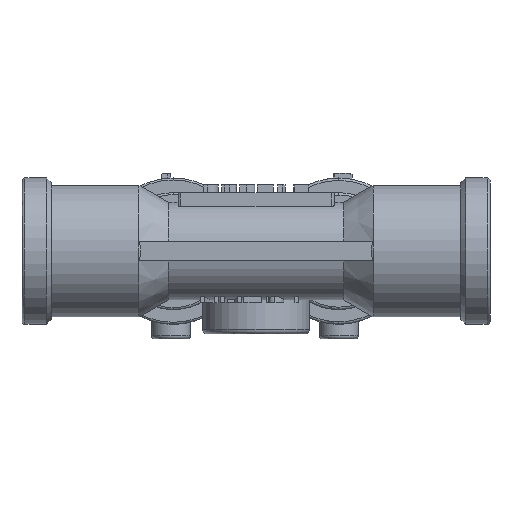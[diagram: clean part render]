
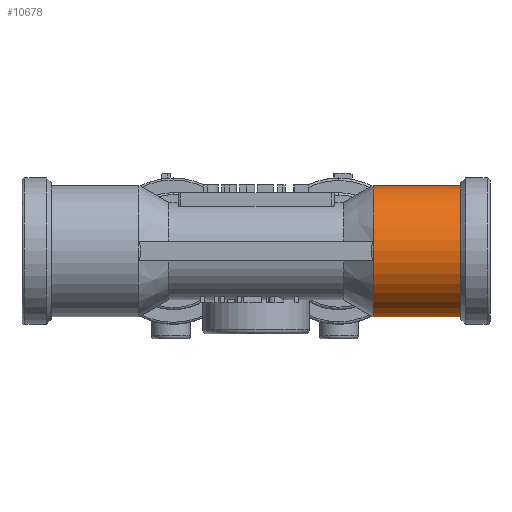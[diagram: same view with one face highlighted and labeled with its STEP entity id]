
A CAD part, front view. The second image highlights one B-rep face of the part: STEP entity #10678.
In plain terms, the highlighted cylindrical face has radius 6.75 mm (diameter 13.5 mm), a partial arc.
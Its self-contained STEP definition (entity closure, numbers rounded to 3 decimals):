
#193 = DIRECTION ( 'NONE',  ( 1., 0., 0. ) ) ;
#436 = CARTESIAN_POINT ( 'NONE',  ( 57.726, 50.382, 133.254 ) ) ;
#672 = EDGE_CURVE ( 'NONE', #10690, #12712, #9213, .T. ) ;
#847 = VECTOR ( 'NONE', #193, 1000. ) ;
#1311 = ORIENTED_EDGE ( 'NONE', *, *, #3421, .F. ) ;
#1366 = CARTESIAN_POINT ( 'NONE',  ( 57.726, 50.382, 119.754 ) ) ;
#1564 = DIRECTION ( 'NONE',  ( 0., 0., -1. ) ) ;
#1702 = EDGE_CURVE ( 'NONE', #12951, #10690, #5446, .T. ) ;
#2031 = CARTESIAN_POINT ( 'NONE',  ( 48.726, 50.382, 126.504 ) ) ;
#3150 = ORIENTED_EDGE ( 'NONE', *, *, #11572, .F. ) ;
#3259 = DIRECTION ( 'NONE',  ( 1., 0., 0. ) ) ;
#3276 = ORIENTED_EDGE ( 'NONE', *, *, #1702, .T. ) ;
#3421 = EDGE_CURVE ( 'NONE', #12951, #4818, #5589, .T. ) ;
#4061 = AXIS2_PLACEMENT_3D ( 'NONE', #2031, #9380, #7330 ) ;
#4649 = DIRECTION ( 'NONE',  ( 1., 0., 0. ) ) ;
#4707 = AXIS2_PLACEMENT_3D ( 'NONE', #10040, #11953, #1564 ) ;
#4818 = VERTEX_POINT ( 'NONE', #436 ) ;
#5096 = VECTOR ( 'NONE', #3259, 1000. ) ;
#5446 = CIRCLE ( 'NONE', #4061, 6.75 ) ;
#5589 = LINE ( 'NONE', #7580, #5096 ) ;
#6247 = CARTESIAN_POINT ( 'NONE',  ( 48.726, 50.382, 133.254 ) ) ;
#6424 = FACE_OUTER_BOUND ( 'NONE', #11313, .T. ) ;
#7330 = DIRECTION ( 'NONE',  ( 0., 0., -1. ) ) ;
#7580 = CARTESIAN_POINT ( 'NONE',  ( 60.726, 50.382, 133.254 ) ) ;
#7845 = DIRECTION ( 'NONE',  ( 0., 0., -1. ) ) ;
#9213 = LINE ( 'NONE', #12750, #847 ) ;
#9380 = DIRECTION ( 'NONE',  ( 1., 0., 0. ) ) ;
#9996 = CARTESIAN_POINT ( 'NONE',  ( 48.726, 50.382, 119.754 ) ) ;
#10040 = CARTESIAN_POINT ( 'NONE',  ( 60.726, 50.382, 126.504 ) ) ;
#10678 = ADVANCED_FACE ( 'NONE', ( #6424 ), #12994, .T. ) ;
#10690 = VERTEX_POINT ( 'NONE', #9996 ) ;
#11313 = EDGE_LOOP ( 'NONE', ( #1311, #3276, #11938, #3150 ) ) ;
#11572 = EDGE_CURVE ( 'NONE', #4818, #12712, #11997, .T. ) ;
#11895 = CARTESIAN_POINT ( 'NONE',  ( 57.726, 50.382, 126.504 ) ) ;
#11938 = ORIENTED_EDGE ( 'NONE', *, *, #672, .T. ) ;
#11953 = DIRECTION ( 'NONE',  ( 1., 0., 0. ) ) ;
#11988 = AXIS2_PLACEMENT_3D ( 'NONE', #11895, #4649, #7845 ) ;
#11997 = CIRCLE ( 'NONE', #11988, 6.75 ) ;
#12712 = VERTEX_POINT ( 'NONE', #1366 ) ;
#12750 = CARTESIAN_POINT ( 'NONE',  ( 60.726, 50.382, 119.754 ) ) ;
#12951 = VERTEX_POINT ( 'NONE', #6247 ) ;
#12994 = CYLINDRICAL_SURFACE ( 'NONE', #4707, 6.75 ) ;
